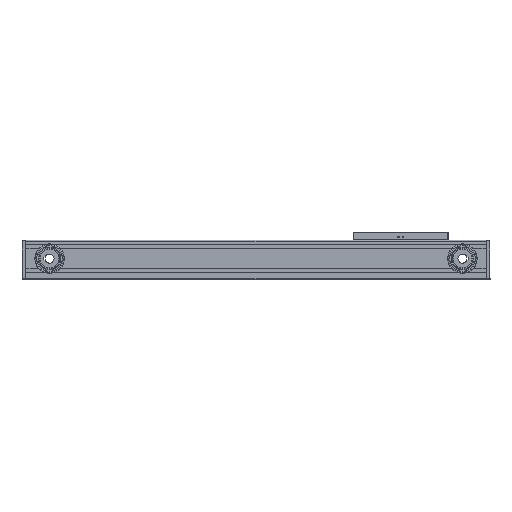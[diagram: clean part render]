
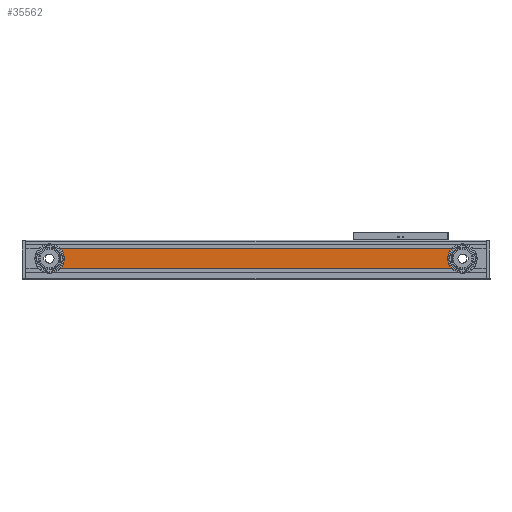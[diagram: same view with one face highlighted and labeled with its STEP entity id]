
A CAD part, top view. The second image highlights one B-rep face of the part: STEP entity #35562.
In plain terms, the highlighted planar face has unit normal (0, 0, 1).
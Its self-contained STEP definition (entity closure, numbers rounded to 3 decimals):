
#3743 = DIRECTION ( 'NONE',  ( 1., 0., 0. ) ) ;
#4367 = ORIENTED_EDGE ( 'NONE', *, *, #105944, .T. ) ;
#7604 = FACE_OUTER_BOUND ( 'NONE', #126298, .T. ) ;
#8270 = DIRECTION ( 'NONE',  ( 1., 0., 0. ) ) ;
#10293 = DIRECTION ( 'NONE',  ( -1., 0., 0. ) ) ;
#14828 = DIRECTION ( 'NONE',  ( 0., 0., 1. ) ) ;
#17425 = PLANE ( 'NONE',  #115014 ) ;
#18904 = ORIENTED_EDGE ( 'NONE', *, *, #41867, .T. ) ;
#20302 = LINE ( 'NONE', #120588, #65764 ) ;
#20309 = EDGE_CURVE ( 'NONE', #108215, #36850, #117197, .T. ) ;
#32605 = CARTESIAN_POINT ( 'NONE',  ( 755.328, 83.121, 83.366 ) ) ;
#35562 = ADVANCED_FACE ( 'NONE', ( #7604 ), #17425, .T. ) ;
#36850 = VERTEX_POINT ( 'NONE', #89203 ) ;
#41867 = EDGE_CURVE ( 'NONE', #36850, #103458, #64800, .T. ) ;
#48649 = CARTESIAN_POINT ( 'NONE',  ( 731.899, 62.821, 83.366 ) ) ;
#49978 = DIRECTION ( 'NONE',  ( 1., 0., 0. ) ) ;
#51453 = CIRCLE ( 'NONE', #68330, 31. ) ;
#52707 = EDGE_CURVE ( 'NONE', #108215, #123597, #51453, .T. ) ;
#57048 = DIRECTION ( 'NONE',  ( 0., 0., 1. ) ) ;
#61604 = CARTESIAN_POINT ( 'NONE',  ( -91.244, 62.821, 83.366 ) ) ;
#64800 = CIRCLE ( 'NONE', #119632, 31. ) ;
#65764 = VECTOR ( 'NONE', #49978, 1000. ) ;
#66037 = ORIENTED_EDGE ( 'NONE', *, *, #20309, .T. ) ;
#66939 = CARTESIAN_POINT ( 'NONE',  ( -164.672, 119.121, 83.366 ) ) ;
#67708 = DIRECTION ( 'NONE',  ( -1., 0., 0. ) ) ;
#68330 = AXIS2_PLACEMENT_3D ( 'NONE', #32605, #14828, #3743 ) ;
#81373 = ORIENTED_EDGE ( 'NONE', *, *, #52707, .F. ) ;
#88137 = CARTESIAN_POINT ( 'NONE',  ( -114.672, 83.121, 83.366 ) ) ;
#89203 = CARTESIAN_POINT ( 'NONE',  ( -91.244, 103.421, 83.366 ) ) ;
#91255 = CARTESIAN_POINT ( 'NONE',  ( 731.899, 103.421, 83.366 ) ) ;
#95268 = VECTOR ( 'NONE', #67708, 1000. ) ;
#103458 = VERTEX_POINT ( 'NONE', #61604 ) ;
#105944 = EDGE_CURVE ( 'NONE', #103458, #123597, #20302, .T. ) ;
#108215 = VERTEX_POINT ( 'NONE', #91255 ) ;
#115014 = AXIS2_PLACEMENT_3D ( 'NONE', #66939, #57048, #8270 ) ;
#117197 = LINE ( 'NONE', #125097, #95268 ) ;
#119632 = AXIS2_PLACEMENT_3D ( 'NONE', #88137, #121743, #10293 ) ;
#120588 = CARTESIAN_POINT ( 'NONE',  ( -164.672, 62.821, 83.366 ) ) ;
#121743 = DIRECTION ( 'NONE',  ( 0., 0., -1. ) ) ;
#123597 = VERTEX_POINT ( 'NONE', #48649 ) ;
#125097 = CARTESIAN_POINT ( 'NONE',  ( -164.672, 103.421, 83.366 ) ) ;
#126298 = EDGE_LOOP ( 'NONE', ( #4367, #81373, #66037, #18904 ) ) ;
